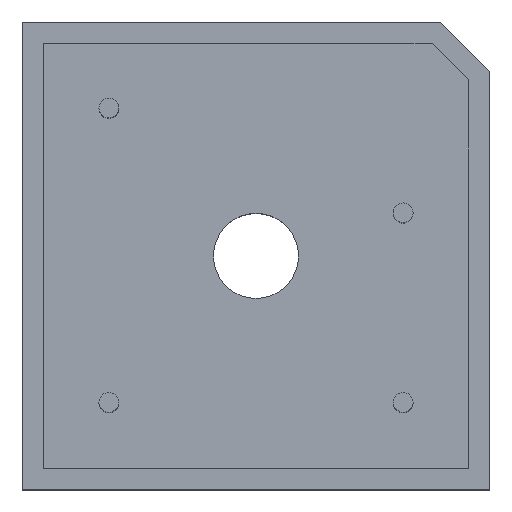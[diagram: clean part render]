
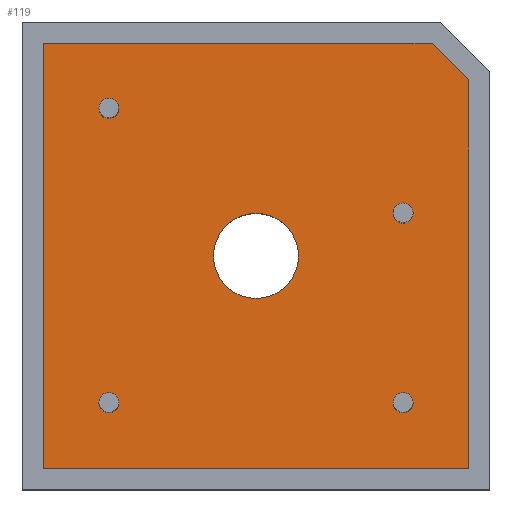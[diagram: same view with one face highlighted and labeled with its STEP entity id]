
A CAD part, top view. The second image highlights one B-rep face of the part: STEP entity #119.
In plain terms, the highlighted planar face has unit normal (0, 0, 1).
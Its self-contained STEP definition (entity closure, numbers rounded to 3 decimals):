
#119=ADVANCED_FACE('',(#178,#179,#180,#181,#182,#183),#146,.T.);
#146=PLANE('',#508);
#168=CIRCLE('',#503,0.6);
#169=CIRCLE('',#504,0.6);
#170=CIRCLE('',#505,0.6);
#171=CIRCLE('',#506,0.6);
#172=CIRCLE('',#507,2.6);
#178=FACE_BOUND('',#198,.T.);
#179=FACE_BOUND('',#199,.T.);
#180=FACE_BOUND('',#200,.T.);
#181=FACE_BOUND('',#201,.T.);
#182=FACE_BOUND('',#202,.T.);
#183=FACE_BOUND('',#203,.T.);
#198=EDGE_LOOP('',(#237,#238,#239,#240,#241));
#199=EDGE_LOOP('',(#242));
#200=EDGE_LOOP('',(#243));
#201=EDGE_LOOP('',(#244));
#202=EDGE_LOOP('',(#245));
#203=EDGE_LOOP('',(#246));
#237=ORIENTED_EDGE('',*,*,#372,.F.);
#238=ORIENTED_EDGE('',*,*,#373,.F.);
#239=ORIENTED_EDGE('',*,*,#374,.F.);
#240=ORIENTED_EDGE('',*,*,#375,.F.);
#241=ORIENTED_EDGE('',*,*,#376,.F.);
#242=ORIENTED_EDGE('',*,*,#377,.F.);
#243=ORIENTED_EDGE('',*,*,#378,.F.);
#244=ORIENTED_EDGE('',*,*,#379,.F.);
#245=ORIENTED_EDGE('',*,*,#380,.F.);
#246=ORIENTED_EDGE('',*,*,#381,.T.);
#337=VERTEX_POINT('',#658);
#338=VERTEX_POINT('',#659);
#339=VERTEX_POINT('',#661);
#340=VERTEX_POINT('',#663);
#341=VERTEX_POINT('',#665);
#342=VERTEX_POINT('',#668);
#343=VERTEX_POINT('',#670);
#344=VERTEX_POINT('',#672);
#345=VERTEX_POINT('',#674);
#346=VERTEX_POINT('',#676);
#372=EDGE_CURVE('',#337,#338,#422,.T.);
#373=EDGE_CURVE('',#339,#337,#423,.T.);
#374=EDGE_CURVE('',#340,#339,#424,.T.);
#375=EDGE_CURVE('',#341,#340,#425,.T.);
#376=EDGE_CURVE('',#338,#341,#426,.T.);
#377=EDGE_CURVE('',#342,#342,#168,.T.);
#378=EDGE_CURVE('',#343,#343,#169,.T.);
#379=EDGE_CURVE('',#344,#344,#170,.T.);
#380=EDGE_CURVE('',#345,#345,#171,.T.);
#381=EDGE_CURVE('',#346,#346,#172,.T.);
#422=LINE('',#657,#462);
#423=LINE('',#660,#463);
#424=LINE('',#662,#464);
#425=LINE('',#664,#465);
#426=LINE('',#666,#466);
#462=VECTOR('',#542,1.);
#463=VECTOR('',#543,1.);
#464=VECTOR('',#544,1.);
#465=VECTOR('',#545,1.);
#466=VECTOR('',#546,1.);
#503=AXIS2_PLACEMENT_3D('',#667,#547,#548);
#504=AXIS2_PLACEMENT_3D('',#669,#549,#550);
#505=AXIS2_PLACEMENT_3D('',#671,#551,#552);
#506=AXIS2_PLACEMENT_3D('',#673,#553,#554);
#507=AXIS2_PLACEMENT_3D('',#675,#555,#556);
#508=AXIS2_PLACEMENT_3D('',#677,#557,#558);
#542=DIRECTION('',(1.,0.,0.));
#543=DIRECTION('',(0.,1.,0.));
#544=DIRECTION('',(-1.,0.,0.));
#545=DIRECTION('',(0.,-1.,0.));
#546=DIRECTION('',(0.707,-0.707,0.));
#547=DIRECTION('',(0.,0.,1.));
#548=DIRECTION('',(1.,0.,0.));
#549=DIRECTION('',(0.,0.,1.));
#550=DIRECTION('',(1.,0.,0.));
#551=DIRECTION('',(0.,0.,1.));
#552=DIRECTION('',(1.,0.,0.));
#553=DIRECTION('',(0.,0.,1.));
#554=DIRECTION('',(1.,0.,0.));
#555=DIRECTION('',(0.,0.,-1.));
#556=DIRECTION('',(-1.,0.,0.));
#557=DIRECTION('',(0.,0.,1.));
#558=DIRECTION('',(1.,0.,0.));
#657=CARTESIAN_POINT('',(14.3,27.3,7.3));
#658=CARTESIAN_POINT('',(1.3,27.3,7.3));
#659=CARTESIAN_POINT('',(25.062,27.3,7.3));
#660=CARTESIAN_POINT('',(1.3,14.3,7.3));
#661=CARTESIAN_POINT('',(1.3,1.3,7.3));
#662=CARTESIAN_POINT('',(14.3,1.3,7.3));
#663=CARTESIAN_POINT('',(27.3,1.3,7.3));
#664=CARTESIAN_POINT('',(27.3,14.3,7.3));
#665=CARTESIAN_POINT('',(27.3,25.062,7.3));
#666=CARTESIAN_POINT('',(26.181,26.181,7.3));
#667=CARTESIAN_POINT('',(23.3,16.9,7.3));
#668=CARTESIAN_POINT('',(23.9,16.9,7.3));
#669=CARTESIAN_POINT('',(23.3,5.3,7.3));
#670=CARTESIAN_POINT('',(23.9,5.3,7.3));
#671=CARTESIAN_POINT('',(5.3,23.3,7.3));
#672=CARTESIAN_POINT('',(5.9,23.3,7.3));
#673=CARTESIAN_POINT('',(5.3,5.3,7.3));
#674=CARTESIAN_POINT('',(5.9,5.3,7.3));
#675=CARTESIAN_POINT('',(14.3,14.3,7.3));
#676=CARTESIAN_POINT('',(11.7,14.3,7.3));
#677=CARTESIAN_POINT('',(14.3,14.3,7.3));
